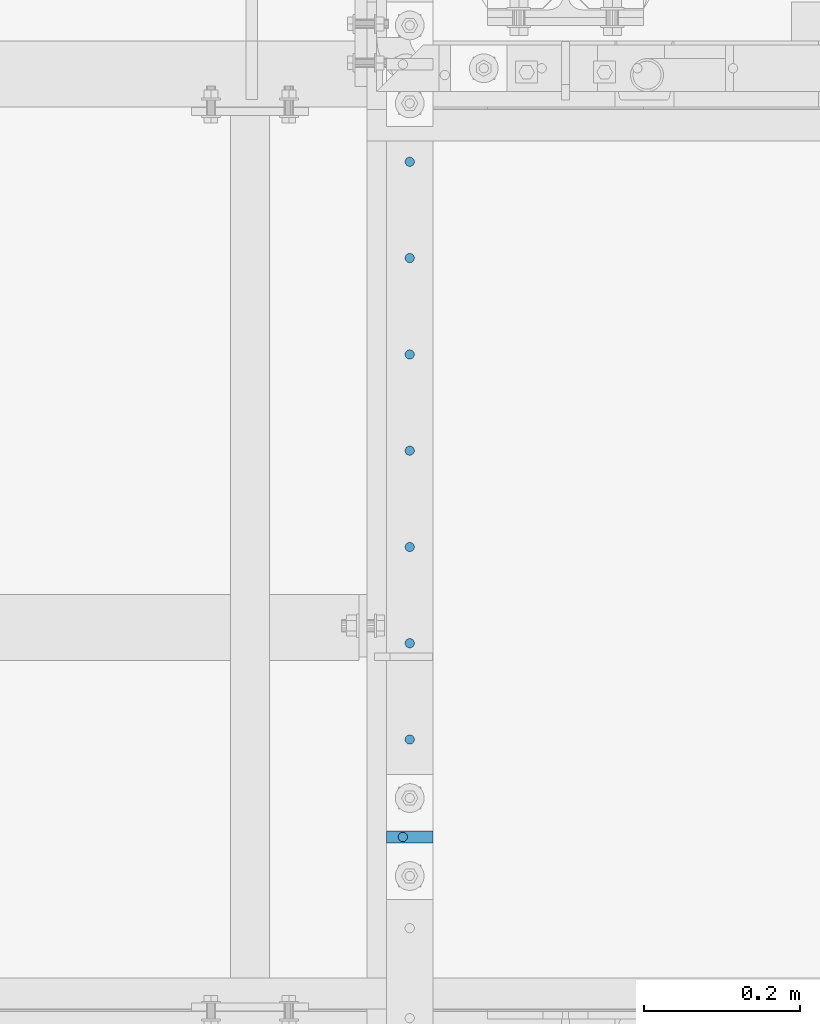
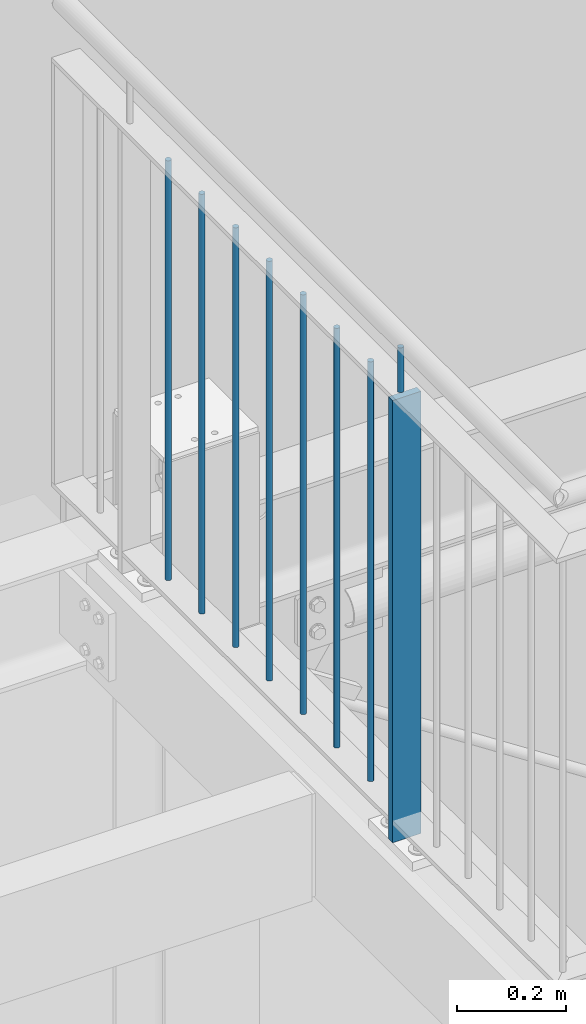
# One storey, part 62 of 821: 9 columns.
"""IFC2X3 building model written with IfcOpenShell, lengths in millimetres."""

from ifc_helpers import new_model, entity, si_unit, converted_unit, frame, origin, origin_with_axes, origin_2d, place, context, project, spatial, rectangle, circle, extrude, clip, halfspace, material, element, save


model = new_model("IFC2X3")

# Units and contexts
model_context = context("Model", 3, precision=1e-09, world=origin_with_axes())
ifc_project = project(units=[si_unit("LENGTHUNIT", "METRE", prefix="MILLI"), si_unit("AREAUNIT", "SQUARE_METRE"), si_unit("VOLUMEUNIT", "CUBIC_METRE"), converted_unit("PLANEANGLEUNIT", "DEGREE", entity("IfcPlaneAngleMeasure", 0.01745329), si_unit("PLANEANGLEUNIT", "RADIAN"), dimensions=[0, 0, 0, 0, 0, 0, 0])], contexts=[model_context])

# Site, building, storey
site_placement = place(None, origin_with_axes())
site = spatial("IfcSite", under=ifc_project, at=site_placement, Name="Cnopf'sche Kinderklinik", CompositionType="ELEMENT")
building_placement = place(site_placement, origin_with_axes())
building = spatial("IfcBuilding", under=site, at=building_placement, Name="Struktur 1", CompositionType="ELEMENT")
storey_placement = place(building_placement, origin_with_axes())
storey = spatial("IfcBuildingStorey", under=building, at=storey_placement, Name="Default Storey", CompositionType="ELEMENT", Elevation=0.0)

# Columns
ifc_material = material(Name="S235JR")
column_1_placement = place(None, frame((4656.713402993, 6370.486721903, 18873.723292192), z_axis=(0.0, 0.0, 1.0), x_axis=(0.0, 1.0, 0.0)))
element("IfcColumn", 1, at=column_1_placement, inside=storey, material=ifc_material, Name="Railing_Post_Landing#3", ObjectType="Railing_Post_Landing#3", context=model_context, shape_type="Clipping", body=[
    clip(clip(extrude(rectangle(XDim=15.0, YDim=60.0, at=origin_2d()), origin(), (0.0, 0.0, -1.0), 1070.646584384), halfspace(frame((-6370.486721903, 4656.713402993, -1019.722292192), z_axis=(0.0, 0.0, 1.0), x_axis=(0.0, -1.0, 0.0)), True)), halfspace(frame((-6370.486721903, 4656.713402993, -30.924292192), z_axis=(0.0, 0.0, -1.0), x_axis=(0.0, 1.0, 0.0)), True)),
])
column_2_placement = place(None, frame((4656.713402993, 6495.516721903, 18856.285281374), z_axis=(0.0, 0.0, 1.0), x_axis=(0.0, 1.0, 0.0)))
element("IfcColumn", 2, at=column_2_placement, inside=storey, material=ifc_material, Name="Railing_Picket_Landing#21", ObjectType="Railing_Picket_Landing#21", context=model_context, shape_type="Clipping", body=[
    clip(clip(extrude(circle(Radius=6.0, at=origin_2d()), origin(), (0.0, 0.0, -1.0), 965.770562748), halfspace(frame((-6495.516721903, 4656.713402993, -13.486281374), z_axis=(0.0, 0.0, -1.0), x_axis=(0.0, 1.0, 0.0)), True)), halfspace(frame((-6495.516721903, 4656.713402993, -952.284281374), z_axis=(0.0, 0.0, 1.0), x_axis=(0.0, -1.0, 0.0)), True)),
])
column_3_placement = place(None, frame((4656.713402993, 6619.048430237, 18856.285281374), z_axis=(0.0, 0.0, 1.0), x_axis=(0.0, 1.0, 0.0)))
element("IfcColumn", 3, at=column_3_placement, inside=storey, material=ifc_material, Name="Railing_Picket_Landing#22", ObjectType="Railing_Picket_Landing#22", context=model_context, shape_type="Clipping", body=[
    clip(clip(extrude(circle(Radius=6.0, at=origin_2d()), origin(), (0.0, 0.0, -1.0), 965.770562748), halfspace(frame((-6619.048430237, 4656.713402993, -13.486281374), z_axis=(0.0, 0.0, -1.0), x_axis=(0.0, 1.0, 0.0)), True)), halfspace(frame((-6619.048430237, 4656.713402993, -952.284281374), z_axis=(0.0, 0.0, 1.0), x_axis=(0.0, -1.0, 0.0)), True)),
])
column_4_placement = place(None, frame((4656.713402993, 6742.58013857, 18856.285281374), z_axis=(0.0, 0.0, 1.0), x_axis=(0.0, 1.0, 0.0)))
element("IfcColumn", 4, at=column_4_placement, inside=storey, material=ifc_material, Name="Railing_Picket_Landing#23", ObjectType="Railing_Picket_Landing#23", context=model_context, shape_type="Clipping", body=[
    clip(clip(extrude(circle(Radius=6.0, at=origin_2d()), origin(), (0.0, 0.0, -1.0), 965.770562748), halfspace(frame((-6742.58013857, 4656.713402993, -13.486281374), z_axis=(0.0, 0.0, -1.0), x_axis=(0.0, 1.0, 0.0)), True)), halfspace(frame((-6742.58013857, 4656.713402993, -952.284281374), z_axis=(0.0, 0.0, 1.0), x_axis=(0.0, -1.0, 0.0)), True)),
])
column_5_placement = place(None, frame((4656.713402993, 6866.111846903, 18856.285281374), z_axis=(0.0, 0.0, 1.0), x_axis=(0.0, 1.0, 0.0)))
element("IfcColumn", 5, at=column_5_placement, inside=storey, material=ifc_material, Name="Railing_Picket_Landing#24", ObjectType="Railing_Picket_Landing#24", context=model_context, shape_type="Clipping", body=[
    clip(clip(extrude(circle(Radius=6.0, at=origin_2d()), origin(), (0.0, 0.0, -1.0), 965.770562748), halfspace(frame((-6866.111846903, 4656.713402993, -13.486281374), z_axis=(0.0, 0.0, -1.0), x_axis=(0.0, 1.0, 0.0)), True)), halfspace(frame((-6866.111846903, 4656.713402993, -952.284281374), z_axis=(0.0, 0.0, 1.0), x_axis=(0.0, -1.0, 0.0)), True)),
])
column_6_placement = place(None, frame((4656.713402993, 6989.643555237, 18856.285281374), z_axis=(0.0, 0.0, 1.0), x_axis=(0.0, 1.0, 0.0)))
element("IfcColumn", 6, at=column_6_placement, inside=storey, material=ifc_material, Name="Railing_Picket_Landing#25", ObjectType="Railing_Picket_Landing#25", context=model_context, shape_type="Clipping", body=[
    clip(clip(extrude(circle(Radius=6.0, at=origin_2d()), origin(), (0.0, 0.0, -1.0), 965.770562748), halfspace(frame((-6989.643555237, 4656.713402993, -13.486281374), z_axis=(0.0, 0.0, -1.0), x_axis=(0.0, 1.0, 0.0)), True)), halfspace(frame((-6989.643555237, 4656.713402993, -952.284281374), z_axis=(0.0, 0.0, 1.0), x_axis=(0.0, -1.0, 0.0)), True)),
])
column_7_placement = place(None, frame((4656.713402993, 7113.17526357, 18856.285281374), z_axis=(0.0, 0.0, 1.0), x_axis=(0.0, 1.0, 0.0)))
element("IfcColumn", 7, at=column_7_placement, inside=storey, material=ifc_material, Name="Railing_Picket_Landing#26", ObjectType="Railing_Picket_Landing#26", context=model_context, shape_type="Clipping", body=[
    clip(clip(extrude(circle(Radius=6.0, at=origin_2d()), origin(), (0.0, 0.0, -1.0), 965.770562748), halfspace(frame((-7113.17526357, 4656.713402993, -13.486281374), z_axis=(0.0, 0.0, -1.0), x_axis=(0.0, 1.0, 0.0)), True)), halfspace(frame((-7113.17526357, 4656.713402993, -952.284281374), z_axis=(0.0, 0.0, 1.0), x_axis=(0.0, -1.0, 0.0)), True)),
])
column_8_placement = place(None, frame((4656.713402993, 7236.706971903, 18856.285281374), z_axis=(0.0, 0.0, 1.0), x_axis=(0.0, 1.0, 0.0)))
element("IfcColumn", 8, at=column_8_placement, inside=storey, material=ifc_material, Name="Railing_Picket_Landing#27", ObjectType="Railing_Picket_Landing#27", context=model_context, shape_type="Clipping", body=[
    clip(clip(extrude(circle(Radius=6.0, at=origin_2d()), origin(), (0.0, 0.0, -1.0), 965.770562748), halfspace(frame((-7236.706971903, 4656.713402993, -13.486281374), z_axis=(0.0, 0.0, -1.0), x_axis=(0.0, 1.0, 0.0)), True)), halfspace(frame((-7236.706971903, 4656.713402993, -952.284281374), z_axis=(0.0, 0.0, 1.0), x_axis=(0.0, -1.0, 0.0)), True)),
])
column_9_placement = place(None, frame((4647.913402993, 6370.486721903, 18961.285281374), z_axis=(0.0, 0.0, 1.0), x_axis=(1.0, 0.0, 0.0)))
element("IfcColumn", 9, at=column_9_placement, inside=storey, material=ifc_material, Name="Bar#3", ObjectType="Bar#3", context=model_context, shape_type="Clipping", body=[
    clip(clip(extrude(circle(Radius=6.0, at=origin_2d()), origin(), (0.0, 0.0, -1.0), 116.970562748), halfspace(frame((-4647.913402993, -6370.486721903, -8.486281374), z_axis=(0.0, 0.0, -1.0), x_axis=(-1.0, 0.0, 0.0)), True)), halfspace(frame((-4647.913402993, -6370.486721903, -108.484281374), z_axis=(0.0, 0.0, 1.0), x_axis=(1.0, 0.0, 0.0)), True)),
])

save(model, "model.ifc")
